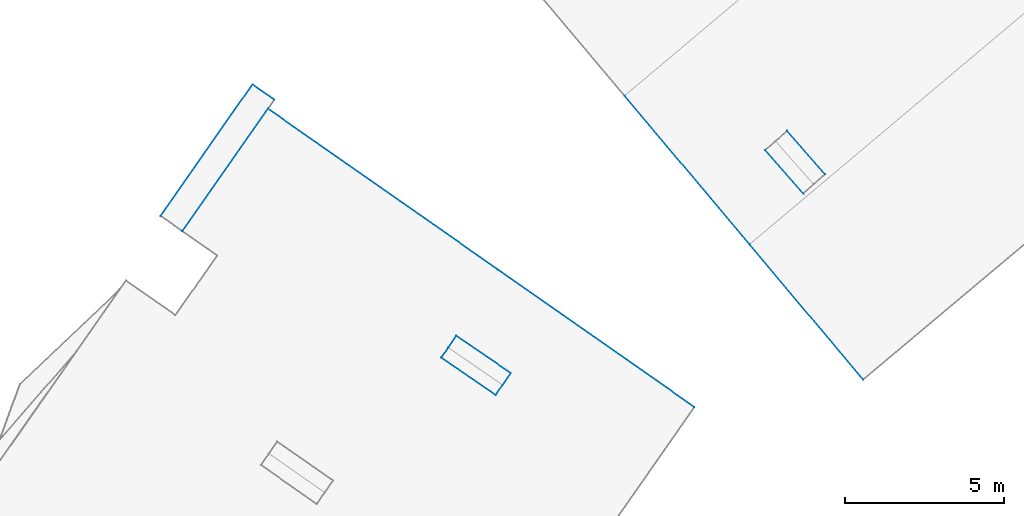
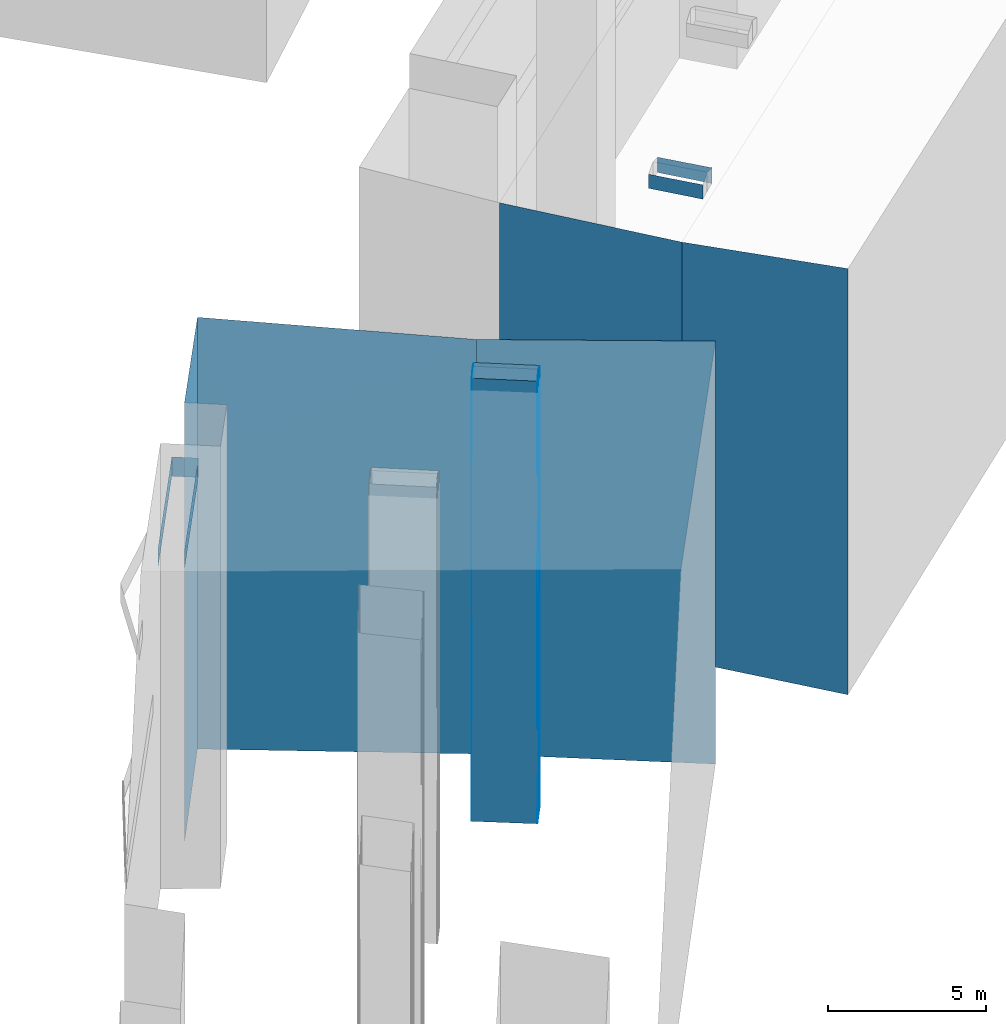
# Not in any storey, part 11 of 136: 19 walls.
"""IFC4 building model written with IfcOpenShell, lengths in metres."""

import ifcopenshell
import ifcopenshell.guid

model = None  # the IFC model being written
_history = None  # IfcOwnerHistory: only IFC2X3 demands one
_inside = {}  # id of a spatial element -> (the spatial element, [elements in it])
_under = {}  # id of a project, library or spatial element -> (it, [spatial elements below it])
_declared = {}  # id of a project -> (the project, [libraries it declares])
_typed = {}  # id of a type object -> (the type object, [elements of that type])
_made_of = {}  # id of a material, layer set ... -> (it, [elements and type objects made of it])


def new_model(schema):
    """Start an empty IFC model of exactly this schema.

    Asked for "IFC4X3", IfcOpenShell would pick the latest addendum, in which some entities
    have other attributes; the version numbers below select the first issue.
    IFC2X3 requires an IfcOwnerHistory on every rooted entity: one is made here for all.
    """
    global model, _history
    if schema == "IFC4X3":
        model = ifcopenshell.file(schema_version=(4, 3, 0, 0))
    else:
        model = ifcopenshell.file(schema=schema)
    _inside.clear()
    _under.clear()
    _declared.clear()
    _typed.clear()
    _made_of.clear()
    _history = None
    if model.schema == "IFC2X3":
        org = make("IfcOrganization", Name="unknown")
        user = make(
            "IfcPersonAndOrganization",
            ThePerson=make("IfcPerson", FamilyName="unknown"),
            TheOrganization=org,
        )
        app = make(
            "IfcApplication",
            ApplicationDeveloper=org,
            Version="unknown",
            ApplicationFullName="unknown",
            ApplicationIdentifier="unknown",
        )
        _history = make(
            "IfcOwnerHistory",
            OwningUser=user,
            OwningApplication=app,
            ChangeAction="ADDED",
            CreationDate=0,
        )
    return model


def make(cls, **values):
    """One entity of the class cls with the attributes given. An attribute that is None is left unset."""
    return model.create_entity(
        cls, **{name: value for name, value in values.items() if value is not None}
    )


def entity(cls, *values):
    """Any entity or typed value of the class cls, its attributes in the order of the schema. None: left unset."""
    e = model.create_entity(cls)
    for i, value in enumerate(values):
        if value is not None:
            e[i] = value
    return e


def rooted(cls, **values):
    """An entity with a GlobalId (a new one), such as an element, a storey or a relation."""
    return make(cls, GlobalId=ifcopenshell.guid.new(), OwnerHistory=_history, **values)


def si_unit(unit_type, name, prefix=None):
    """IfcSIUnit, for example si_unit("LENGTHUNIT", "METRE", prefix="MILLI")."""
    return make("IfcSIUnit", UnitType=unit_type, Prefix=prefix, Name=name)


def converted_unit(unit_type, name, factor, base, dimensions=None, offset=None):
    """IfcConversionBasedUnit, such as the inch: factor (a typed value) times the base unit."""
    return make(
        "IfcConversionBasedUnit"
        if offset is None
        else "IfcConversionBasedUnitWithOffset",
        ConversionOffset=offset,
        Dimensions=None
        if dimensions is None
        else entity("IfcDimensionalExponents", *dimensions),
        UnitType=unit_type,
        Name=name,
        ConversionFactor=make(
            "IfcMeasureWithUnit", ValueComponent=factor, UnitComponent=base
        ),
    )


def assignment(units):
    """IfcUnitAssignment: the units of a project."""
    return None if units is None else make("IfcUnitAssignment", Units=units)


def point(xyz):
    """IfcCartesianPoint."""
    return None if xyz is None else make("IfcCartesianPoint", Coordinates=xyz)


def direction(xyz):
    """IfcDirection."""
    return None if xyz is None else make("IfcDirection", DirectionRatios=xyz)


def frame(location, z_axis=None, x_axis=None):
    """IfcAxis2Placement3D, a coordinate frame: its origin and axes. An axis left out is left unset."""
    return make(
        "IfcAxis2Placement3D",
        Location=point(location),
        Axis=direction(z_axis),
        RefDirection=direction(x_axis),
    )


def origin():
    """The frame at (0, 0, 0) with its axes left unset."""
    return frame((0.0, 0.0, 0.0))


def place(relative_to, where):
    """IfcLocalPlacement: puts the frame where relative to a parent placement (None: the world)."""
    return make(
        "IfcLocalPlacement", PlacementRelTo=relative_to, RelativePlacement=where
    )


def context(
    kind, dimensions, precision=None, world=None, true_north=None, identifier=None
):
    """IfcGeometricRepresentationContext, for example the 3D "Model" context."""
    return make(
        "IfcGeometricRepresentationContext",
        ContextIdentifier=identifier,
        ContextType=kind,
        CoordinateSpaceDimension=dimensions,
        Precision=precision,
        WorldCoordinateSystem=world,
        TrueNorth=true_north,
    )


def subcontext(parent, identifier, kind, view, scale=None):
    """IfcGeometricRepresentationSubContext, for example "Body" below "Model"."""
    return make(
        "IfcGeometricRepresentationSubContext",
        ContextIdentifier=identifier,
        ContextType=kind,
        ParentContext=parent,
        TargetScale=scale,
        TargetView=view,
    )


def project(units=None, contexts=None):
    """IfcProject with its units and contexts."""
    return rooted(
        "IfcProject",
        Name="project",
        RepresentationContexts=contexts,
        UnitsInContext=assignment(units),
    )


def spatial(cls, under=None, at=None, **own):
    """A site, building, storey or space (cls), placed at a placement, below another one or the project."""
    s = rooted(cls, ObjectPlacement=at, **own)
    if under is not None:
        _under.setdefault(under.id(), (under, []))[1].append(s)
    return s


def faces_of(points, faces, orient=None, outer=None):
    """IfcFace entities. A face is a list of loops; a loop is a list of indices into points, from 0.

    orient and outer hold one flag for each loop. By default every Orientation is true, the
    first loop of a face is its IfcFaceOuterBound and the others are IfcFaceBound.
    """
    made = []
    for i, loops in enumerate(faces):
        bounds = []
        for j, loop in enumerate(loops):
            is_outer = j == 0 if outer is None else outer[i][j]
            bounds.append(
                make(
                    "IfcFaceOuterBound" if is_outer else "IfcFaceBound",
                    Bound=make("IfcPolyLoop", Polygon=[points[k] for k in loop]),
                    Orientation=True if orient is None else orient[i][j],
                )
            )
        made.append(make("IfcFace", Bounds=bounds))
    return made


def face_set(faces, orient=None, outer=None):
    """The faces of one IfcConnectedFaceSet. surface_model builds it on its shared points."""
    return ("IfcConnectedFaceSet", faces, orient, outer)


def surface_model(cls, points, shells):
    """IfcFaceBasedSurfaceModel or IfcShellBasedSurfaceModel (cls): surfaces that need not close."""
    shared = [point(p) for p in points]
    made = [make(c, CfsFaces=faces_of(shared, fs, o, b)) for c, fs, o, b in shells]
    if cls == "IfcFaceBasedSurfaceModel":
        return make(cls, FbsmFaces=made)
    return make(cls, SbsmBoundary=made)


def shape(context_of_items, identifier, shape_type, items):
    """IfcShapeRepresentation: the items that make up one representation, for example the "Body"."""
    return make(
        "IfcShapeRepresentation",
        ContextOfItems=context_of_items,
        RepresentationIdentifier=identifier,
        RepresentationType=shape_type,
        Items=items,
    )


def made_of(thing, what):
    """Note that an element or type object is made of a material, layer set ...; save() writes the relation."""
    if what is not None:
        _made_of.setdefault(what.id(), (what, []))[1].append(thing)
    return thing


def element(
    cls,
    number,
    at=None,
    inside=None,
    cuts=None,
    type_object=None,
    material=None,
    context=None,
    identifier="Body",
    shape_type=None,
    held_by="IfcProductDefinitionShape",
    body=None,
    shapes=None,
    **own,
):
    """One element of the class cls, such as IfcWall. Its Tag is "e" and its number.

    at: its placement. inside: the storey or other place that contains it. cuts: it is an
    opening in that element (IfcRelVoidsElement). A single representation is given by context,
    identifier, shape_type and body (its items); several are given by shapes. held_by: the class
    of the entity that holds the representations. save() writes the other relations.
    """
    e = rooted(cls, Tag="e%d" % number, ObjectPlacement=at, **own)
    if body is not None:
        shapes = [shape(context, identifier, shape_type, body)]
    if shapes is not None:
        e.Representation = make(held_by, Representations=shapes)
    if inside is not None:
        _inside.setdefault(inside.id(), (inside, []))[1].append(e)
    if cuts is not None:
        rooted(
            "IfcRelVoidsElement", RelatingBuildingElement=cuts, RelatedOpeningElement=e
        )
    if type_object is not None:
        _typed.setdefault(type_object.id(), (type_object, []))[1].append(e)
    return made_of(e, material)


def aggregate(whole, parts):
    """IfcRelAggregates: a whole, such as a stair, and the parts it consists of."""
    return rooted("IfcRelAggregates", RelatingObject=whole, RelatedObjects=parts)


def save(model, path):
    """Write the relations noted so far, then the file.

    IfcRelAggregates (storeys below a building ...), IfcRelContainedInSpatialStructure (elements
    in a storey), IfcRelDefinesByType, IfcRelAssociatesMaterial and IfcRelDeclares: one each for
    every whole, place, type object, material and project.
    """
    for whole, parts in _under.values():
        aggregate(whole, parts)
    for where, things in _inside.values():
        rooted(
            "IfcRelContainedInSpatialStructure",
            RelatedElements=things,
            RelatingStructure=where,
        )
    for kind, things in _typed.values():
        rooted("IfcRelDefinesByType", RelatedObjects=things, RelatingType=kind)
    for what, things in _made_of.values():
        rooted("IfcRelAssociatesMaterial", RelatedObjects=things, RelatingMaterial=what)
    for by, libraries in _declared.values():
        rooted("IfcRelDeclares", RelatingContext=by, RelatedDefinitions=libraries)
    model.write(path)


model = new_model("IFC4")

# Units and contexts
model_context = context("Model", 3, precision=1e-05, world=origin())
body_context = subcontext(model_context, "Body", "Model", "MODEL_VIEW")
ifc_project = project(units=[converted_unit("PLANEANGLEUNIT", "DEGREE", entity("IfcRatioMeasure", 0.0174532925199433), si_unit("PLANEANGLEUNIT", "RADIAN"), dimensions=[0, 0, 0, 0, 0, 0, 0]), si_unit("AREAUNIT", "SQUARE_METRE"), si_unit("LENGTHUNIT", "METRE")], contexts=[model_context])

# Site, building
site_placement = place(None, origin())
site = spatial("IfcSite", under=ifc_project, at=site_placement, Name="_site")
building_1_placement = place(site_placement, origin())
building_1 = spatial("IfcBuilding", under=site, at=building_1_placement, Name="_building")

# Walls
wall_1_placement = place(building_1_placement, origin())
element("IfcWall", 1, at=wall_1_placement, inside=building_1, Name="Wall", PredefinedType="NOTDEFINED", context=body_context, shape_type="SurfaceModel", body=[
    surface_model("IfcFaceBasedSurfaceModel", [(27.61, 45.91, 54.43), (25.9, 47.09, 54.43), (25.9, 47.09, 37.351), (27.61, 45.91, 37.371)], [face_set([[[0, 1, 2, 3]]])]),
])
wall_2_placement = place(building_1_placement, origin())
element("IfcWall", 2, at=wall_2_placement, inside=building_1, Name="Wall", PredefinedType="NOTDEFINED", context=body_context, shape_type="SurfaceModel", body=[
    surface_model("IfcFaceBasedSurfaceModel", [(20.43, 54.94, 47.51), (17.73, 51.08, 47.51), (17.73, 51.08, 48.26), (20.43, 54.94, 48.26)], [face_set([[[0, 1, 2, 3]]])]),
])
wall_3_placement = place(building_1_placement, origin())
element("IfcWall", 3, at=wall_3_placement, inside=building_1, Name="Wall", PredefinedType="NOTDEFINED", context=body_context, shape_type="SurfaceModel", body=[
    surface_model("IfcFaceBasedSurfaceModel", [(19.94, 55.71, 47.51), (20.63, 55.23, 47.51), (20.63, 55.23, 48.26), (19.94, 55.71, 48.26)], [face_set([[[0, 1, 2, 3]]])]),
])
wall_4_placement = place(building_1_placement, origin())
element("IfcWall", 4, at=wall_4_placement, inside=building_1, Name="Wall", PredefinedType="NOTDEFINED", context=body_context, shape_type="SurfaceModel", body=[
    surface_model("IfcFaceBasedSurfaceModel", [(17.04, 51.561, 47.51), (19.94, 55.71, 47.51), (19.94, 55.71, 48.26), (17.04, 51.561, 48.26)], [face_set([[[0, 1, 2, 3]]])]),
])
wall_5_placement = place(building_1_placement, origin())
element("IfcWall", 5, at=wall_5_placement, inside=building_1, Name="Wall", PredefinedType="NOTDEFINED", context=body_context, shape_type="SurfaceModel", body=[
    surface_model("IfcFaceBasedSurfaceModel", [(20.43, 54.94, 47.51), (17.73, 51.08, 47.51), (17.73, 51.08, 48.26), (20.43, 54.94, 48.26)], [face_set([[[0, 1, 2, 3]]])]),
])
wall_6_placement = place(building_1_placement, origin())
element("IfcWall", 6, at=wall_6_placement, inside=building_1, Name="Wall", PredefinedType="NOTDEFINED", context=body_context, shape_type="SurfaceModel", body=[
    surface_model("IfcFaceBasedSurfaceModel", [(19.94, 55.71, 47.51), (20.63, 55.23, 47.51), (20.63, 55.23, 48.26), (19.94, 55.71, 48.26)], [face_set([[[0, 1, 2, 3]]])]),
])
wall_7_placement = place(building_1_placement, origin())
element("IfcWall", 7, at=wall_7_placement, inside=building_1, Name="Wall", PredefinedType="NOTDEFINED", context=body_context, shape_type="SurfaceModel", body=[
    surface_model("IfcFaceBasedSurfaceModel", [(17.04, 51.561, 47.51), (19.94, 55.71, 47.51), (19.94, 55.71, 48.26), (17.04, 51.561, 48.26)], [face_set([[[0, 1, 2, 3]]])]),
])
wall_8_placement = place(building_1_placement, origin())
element("IfcWall", 8, at=wall_8_placement, inside=building_1, Name="Wall", PredefinedType="NOTDEFINED", context=body_context, shape_type="SurfaceModel", body=[
    surface_model("IfcFaceBasedSurfaceModel", [(26.37, 47.78, 54.45), (28.09, 46.601, 54.45), (28.09, 46.601, 37.445), (26.37, 47.78, 37.424)], [face_set([[[0, 1, 2, 3]]])]),
])
wall_9_placement = place(building_1_placement, origin())
element("IfcWall", 9, at=wall_9_placement, inside=building_1, Name="Wall", PredefinedType="NOTDEFINED", context=body_context, shape_type="SurfaceModel", body=[
    surface_model("IfcFaceBasedSurfaceModel", [(26.12, 47.41, 54.62), (26.37, 47.78, 54.45), (26.37, 47.78, 37.424), (26.12, 47.41, 37.385)], [face_set([[[0, 1, 2, 3]]])]),
])
wall_10_placement = place(building_1_placement, origin())
element("IfcWall", 10, at=wall_10_placement, inside=building_1, Name="Wall", PredefinedType="NOTDEFINED", context=body_context, shape_type="SurfaceModel", body=[
    surface_model("IfcFaceBasedSurfaceModel", [(28.09, 46.601, 54.45), (27.83, 46.23, 54.62), (27.83, 46.23, 37.405), (28.09, 46.601, 37.445)], [face_set([[[0, 1, 2, 3]]])]),
])
wall_11_placement = place(building_1_placement, origin())
element("IfcWall", 11, at=wall_11_placement, inside=building_1, Name="Wall", PredefinedType="NOTDEFINED", context=body_context, shape_type="SurfaceModel", body=[
    surface_model("IfcFaceBasedSurfaceModel", [(25.9, 47.09, 54.43), (26.12, 47.41, 54.62), (26.12, 47.41, 37.385), (25.9, 47.09, 37.351)], [face_set([[[0, 1, 2, 3]]])]),
])
wall_12_placement = place(building_1_placement, origin())
element("IfcWall", 12, at=wall_12_placement, inside=building_1, Name="Wall", PredefinedType="NOTDEFINED", context=body_context, shape_type="SurfaceModel", body=[
    surface_model("IfcFaceBasedSurfaceModel", [(27.83, 46.23, 54.62), (27.61, 45.91, 54.43), (27.61, 45.91, 37.371), (27.83, 46.23, 37.405)], [face_set([[[0, 1, 2, 3]]])]),
])
wall_13_placement = place(building_1_placement, origin())
element("IfcWall", 13, at=wall_13_placement, inside=building_1, Name="Wall", PredefinedType="NOTDEFINED", context=body_context, shape_type="SurfaceModel", body=[
    surface_model("IfcFaceBasedSurfaceModel", [(20.43, 54.94, 53.93), (27.68, 49.87, 53.61), (27.68, 49.87, 37.64), (20.43, 54.94, 37.292)], [face_set([[[0, 1, 2, 3]]])]),
])
wall_14_placement = place(building_1_placement, origin())
element("IfcWall", 14, at=wall_14_placement, inside=building_1, Name="Wall", PredefinedType="NOTDEFINED", context=body_context, shape_type="SurfaceModel", body=[
    surface_model("IfcFaceBasedSurfaceModel", [(17.73, 51.08, 53.93), (20.43, 54.94, 53.93), (20.43, 54.94, 37.292), (17.73, 51.08, 36.961)], [face_set([[[0, 1, 2, 3]]])]),
])
wall_15_placement = place(building_1_placement, origin())
element("IfcWall", 15, at=wall_15_placement, inside=building_1, Name="Wall", PredefinedType="NOTDEFINED", context=body_context, shape_type="SurfaceModel", body=[
    surface_model("IfcFaceBasedSurfaceModel", [(27.68, 49.87, 53.61), (33.88, 45.53, 54.01), (33.88, 45.53, 37.708), (27.68, 49.87, 37.64)], [face_set([[[0, 1, 2, 3]]])]),
])

# Building
building_2_placement = place(site_placement, origin())
building_2 = spatial("IfcBuilding", under=site, at=building_2_placement, Name="_building")

# Walls
wall_16_placement = place(building_2_placement, origin())
element("IfcWall", 16, at=wall_16_placement, inside=building_2, Name="Wall", PredefinedType="NOTDEFINED", context=body_context, shape_type="SurfaceModel", body=[
    surface_model("IfcFaceBasedSurfaceModel", [(36.8, 54.25, 54.79), (38.0, 52.88, 54.79), (38.0, 52.88, 54.183), (36.8, 54.25, 54.199)], [face_set([[[0, 1, 2, 3]]])]),
])
wall_17_placement = place(building_2_placement, origin())
element("IfcWall", 17, at=wall_17_placement, inside=building_2, Name="Wall", PredefinedType="NOTDEFINED", context=body_context, shape_type="SurfaceModel", body=[
    surface_model("IfcFaceBasedSurfaceModel", [(37.32, 52.271, 54.74), (36.12, 53.64, 54.74), (36.12, 53.64, 54.198), (37.32, 52.271, 54.182)], [face_set([[[0, 1, 2, 3]]])]),
])
wall_18_placement = place(building_2_placement, origin())
element("IfcWall", 18, at=wall_18_placement, inside=building_2, Name="Wall", PredefinedType="NOTDEFINED", context=body_context, shape_type="SurfaceModel", body=[
    surface_model("IfcFaceBasedSurfaceModel", [(35.62, 50.67, 54.1), (31.68, 55.36, 54.15), (31.68, 55.36, 37.999), (35.62, 50.67, 37.99)], [face_set([[[0, 1, 2, 3]]])]),
])
wall_19_placement = place(building_2_placement, origin())
element("IfcWall", 19, at=wall_19_placement, inside=building_2, Name="Wall", PredefinedType="NOTDEFINED", context=body_context, shape_type="SurfaceModel", body=[
    surface_model("IfcFaceBasedSurfaceModel", [(39.21, 46.4, 54.41), (35.62, 50.67, 54.1), (35.62, 50.67, 37.99), (39.21, 46.4, 37.985)], [face_set([[[0, 1, 2, 3]]])]),
])

save(model, "model.ifc")
